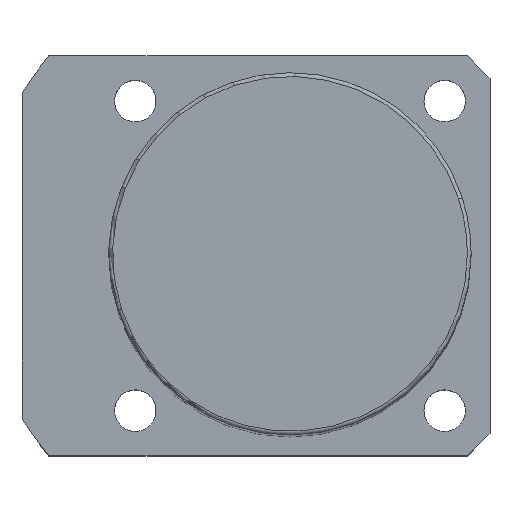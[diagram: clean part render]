
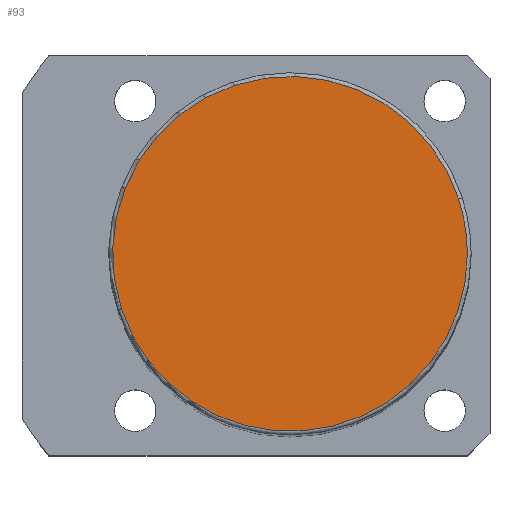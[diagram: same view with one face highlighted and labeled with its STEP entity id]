
A CAD part, top view. The second image highlights one B-rep face of the part: STEP entity #93.
In plain terms, the highlighted planar face has unit normal (0, 0, 1).
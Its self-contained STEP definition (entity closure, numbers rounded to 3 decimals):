
#16=CARTESIAN_POINT('',(22.35,7.262,164.0));
#17=VERTEX_POINT('',#16);
#45=CARTESIAN_POINT('',(-22.35,-7.262,164.0));
#46=VERTEX_POINT('',#45);
#54=CARTESIAN_POINT('',(0.0,0.0,164.0));
#55=DIRECTION('',(0.0,0.0,1.0));
#56=DIRECTION('',(1.0,0.0,0.0));
#57=AXIS2_PLACEMENT_3D('',#54,#55,#56);
#58=CIRCLE('',#57,23.5);
#59=EDGE_CURVE('no 890',#17,#46,#58,.T.);
#69=CARTESIAN_POINT('',(23.5,0.0,164.0));
#70=VERTEX_POINT('',#69);
#71=CARTESIAN_POINT('',(0.0,0.0,164.0));
#72=DIRECTION('',(0.0,0.0,1.0));
#73=DIRECTION('',(1.0,0.0,0.0));
#74=AXIS2_PLACEMENT_3D('',#71,#72,#73);
#75=CIRCLE('',#74,23.5);
#76=EDGE_CURVE('no 899',#70,#17,#75,.T.);
#77=ORIENTED_EDGE('',*,*,#76,.T.);
#78=ORIENTED_EDGE('',*,*,#59,.T.);
#79=CARTESIAN_POINT('',(0.0,0.0,164.0));
#80=DIRECTION('',(0.0,0.0,1.0));
#81=DIRECTION('',(1.0,0.0,0.0));
#82=AXIS2_PLACEMENT_3D('',#79,#80,#81);
#83=CIRCLE('',#82,23.5);
#84=EDGE_CURVE('no 905',#46,#70,#83,.T.);
#85=ORIENTED_EDGE('',*,*,#84,.T.);
#86=EDGE_LOOP('',(#77,#78,#85));
#87=FACE_OUTER_BOUND('',#86,.T.);
#88=CARTESIAN_POINT('',(0.0,0.0,164.0));
#89=DIRECTION('',(0.0,0.0,1.0));
#90=DIRECTION('',(1.0,0.0,0.0));
#91=AXIS2_PLACEMENT_3D('',#88,#89,#90);
#92=PLANE('',#91);
#93=ADVANCED_FACE('no 892',(#87),#92,.T.);
